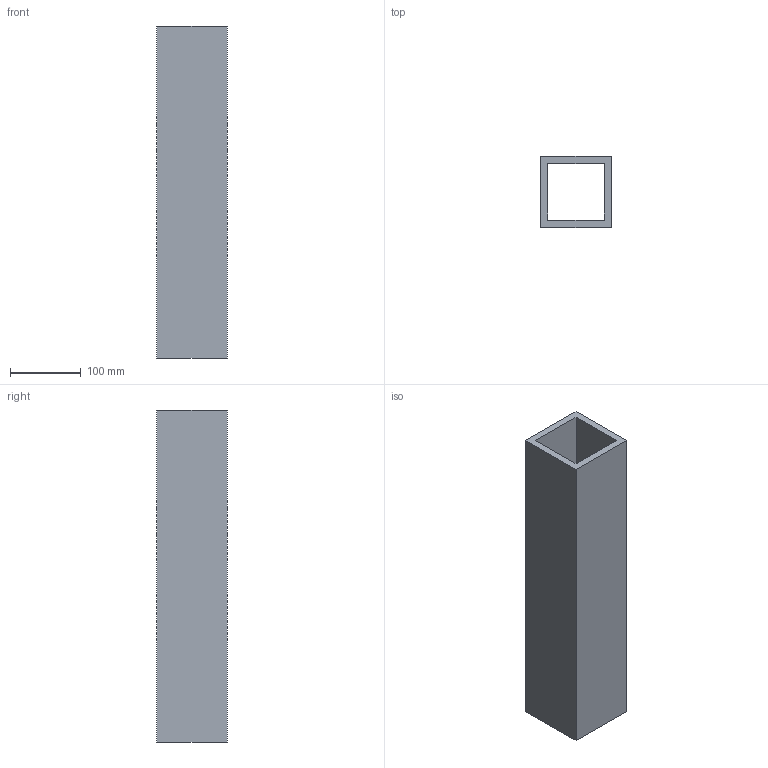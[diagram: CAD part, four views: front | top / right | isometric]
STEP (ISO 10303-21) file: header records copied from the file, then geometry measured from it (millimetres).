
FILE_DESCRIPTION(('Open CASCADE Model'),'2;1');
FILE_NAME('Open CASCADE Shape Model','2026-10-15T15:10:05',('Author'),( 'Open CASCADE'),'Open CASCADE STEP processor 8.0','Open CASCADE 8.0' ,'Unknown');
FILE_SCHEMA(('AUTOMOTIVE_DESIGN { 1 0 10303 214 1 1 1 1 }'));
Length unit declared in the file: millimetre
Products named in the file (1): BRT_OUTRIGGER_SHS100x100x10_S355_L468_P05 169
Bounding box: 100 x 100 x 468 mm (x, y, z)
Volume: 1684800 mm3; surface area: 344160 mm2
Topology: 1 solids, 1 shells, 10 faces, 24 edges, 16 vertices
Faces by surface type: plane 10
Entity records: 614 total; most frequent: CARTESIAN_POINT 99, DIRECTION 94, LINE 72, VECTOR 72, ORIENTED_EDGE 48, PCURVE 48, DEFINITIONAL_REPRESENTATION 48, EDGE_CURVE 24
